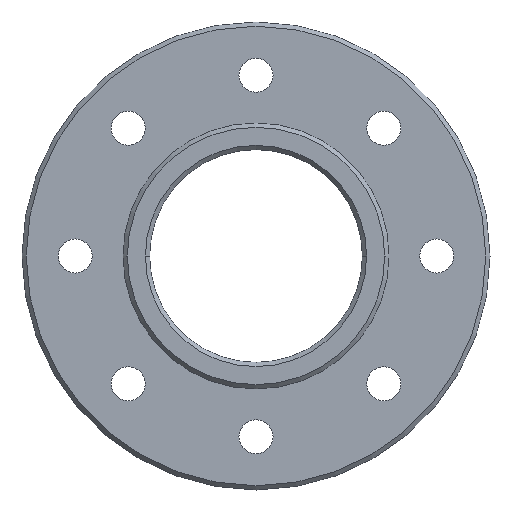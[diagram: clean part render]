
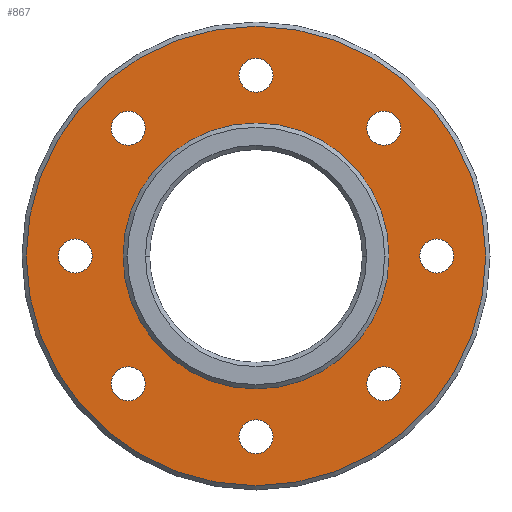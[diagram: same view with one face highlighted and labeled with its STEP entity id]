
A CAD part, front view. The second image highlights one B-rep face of the part: STEP entity #867.
In plain terms, the highlighted planar face has unit normal (0, -1, 0).
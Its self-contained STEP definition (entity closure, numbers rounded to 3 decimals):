
#28=CARTESIAN_POINT('',(0.,-2.,0.));
#29=DIRECTION('',(0.,1.,0.));
#30=DIRECTION('',(1.,0.,0.));
#31=AXIS2_PLACEMENT_3D('',#28,#29,#30);
#33=CARTESIAN_POINT('',(0.,-2.,0.));
#34=DIRECTION('',(0.,-1.,0.));
#35=DIRECTION('',(1.,0.,0.));
#36=AXIS2_PLACEMENT_3D('',#33,#34,#35);
#38=CARTESIAN_POINT('',(0.,-2.,-8.5));
#39=DIRECTION('',(0.,1.,0.));
#40=DIRECTION('',(1.,0.,0.));
#41=AXIS2_PLACEMENT_3D('',#38,#39,#40);
#43=CARTESIAN_POINT('',(0.,-2.,-8.5));
#44=DIRECTION('',(0.,1.,0.));
#45=DIRECTION('',(-1.,0.,0.));
#46=AXIS2_PLACEMENT_3D('',#43,#44,#45);
#48=CARTESIAN_POINT('',(6.01,-2.,-6.01));
#49=DIRECTION('',(0.,1.,0.));
#50=DIRECTION('',(1.,0.,0.));
#51=AXIS2_PLACEMENT_3D('',#48,#49,#50);
#53=CARTESIAN_POINT('',(6.01,-2.,-6.01));
#54=DIRECTION('',(0.,1.,0.));
#55=DIRECTION('',(-1.,0.,0.));
#56=AXIS2_PLACEMENT_3D('',#53,#54,#55);
#58=CARTESIAN_POINT('',(8.5,-2.,0.));
#59=DIRECTION('',(0.,1.,0.));
#60=DIRECTION('',(1.,0.,0.));
#61=AXIS2_PLACEMENT_3D('',#58,#59,#60);
#63=CARTESIAN_POINT('',(8.5,-2.,0.));
#64=DIRECTION('',(0.,1.,0.));
#65=DIRECTION('',(-1.,0.,0.));
#66=AXIS2_PLACEMENT_3D('',#63,#64,#65);
#68=CARTESIAN_POINT('',(6.01,-2.,6.01));
#69=DIRECTION('',(0.,1.,0.));
#70=DIRECTION('',(1.,0.,0.));
#71=AXIS2_PLACEMENT_3D('',#68,#69,#70);
#73=CARTESIAN_POINT('',(6.01,-2.,6.01));
#74=DIRECTION('',(0.,1.,0.));
#75=DIRECTION('',(-1.,0.,0.));
#76=AXIS2_PLACEMENT_3D('',#73,#74,#75);
#78=CARTESIAN_POINT('',(0.,-2.,8.5));
#79=DIRECTION('',(0.,1.,0.));
#80=DIRECTION('',(1.,0.,0.));
#81=AXIS2_PLACEMENT_3D('',#78,#79,#80);
#83=CARTESIAN_POINT('',(0.,-2.,8.5));
#84=DIRECTION('',(0.,1.,0.));
#85=DIRECTION('',(-1.,0.,0.));
#86=AXIS2_PLACEMENT_3D('',#83,#84,#85);
#88=CARTESIAN_POINT('',(-6.01,-2.,6.01));
#89=DIRECTION('',(0.,1.,0.));
#90=DIRECTION('',(1.,0.,0.));
#91=AXIS2_PLACEMENT_3D('',#88,#89,#90);
#93=CARTESIAN_POINT('',(-6.01,-2.,6.01));
#94=DIRECTION('',(0.,1.,0.));
#95=DIRECTION('',(-1.,0.,0.));
#96=AXIS2_PLACEMENT_3D('',#93,#94,#95);
#98=CARTESIAN_POINT('',(-8.5,-2.,0.));
#99=DIRECTION('',(0.,1.,0.));
#100=DIRECTION('',(1.,0.,0.));
#101=AXIS2_PLACEMENT_3D('',#98,#99,#100);
#103=CARTESIAN_POINT('',(-8.5,-2.,0.));
#104=DIRECTION('',(0.,1.,0.));
#105=DIRECTION('',(-1.,0.,0.));
#106=AXIS2_PLACEMENT_3D('',#103,#104,#105);
#108=CARTESIAN_POINT('',(-6.01,-2.,-6.01));
#109=DIRECTION('',(0.,1.,0.));
#110=DIRECTION('',(1.,0.,0.));
#111=AXIS2_PLACEMENT_3D('',#108,#109,#110);
#113=CARTESIAN_POINT('',(-6.01,-2.,-6.01));
#114=DIRECTION('',(0.,1.,0.));
#115=DIRECTION('',(-1.,0.,0.));
#116=AXIS2_PLACEMENT_3D('',#113,#114,#115);
#127=CARTESIAN_POINT('',(0.,-2.,0.));
#128=DIRECTION('',(0.,-1.,0.));
#129=DIRECTION('',(1.,0.,0.));
#130=AXIS2_PLACEMENT_3D('',#127,#128,#129);
#575=CARTESIAN_POINT('',(0.,-2.,0.));
#576=DIRECTION('',(0.,1.,0.));
#577=DIRECTION('',(1.,0.,0.));
#578=AXIS2_PLACEMENT_3D('',#575,#576,#577);
#590=CARTESIAN_POINT('',(6.25,-2.,0.));
#591=CARTESIAN_POINT('',(-6.25,-2.,0.));
#592=VERTEX_POINT('',#590);
#593=VERTEX_POINT('',#591);
#602=CARTESIAN_POINT('',(0.8,-2.,-8.5));
#603=CARTESIAN_POINT('',(-0.8,-2.,-8.5));
#604=VERTEX_POINT('',#602);
#605=VERTEX_POINT('',#603);
#614=CARTESIAN_POINT('',(6.81,-2.,-6.01));
#615=CARTESIAN_POINT('',(5.21,-2.,-6.01));
#616=VERTEX_POINT('',#614);
#617=VERTEX_POINT('',#615);
#626=CARTESIAN_POINT('',(9.3,-2.,0.));
#627=CARTESIAN_POINT('',(7.7,-2.,0.));
#628=VERTEX_POINT('',#626);
#629=VERTEX_POINT('',#627);
#638=CARTESIAN_POINT('',(6.81,-2.,6.01));
#639=CARTESIAN_POINT('',(5.21,-2.,6.01));
#640=VERTEX_POINT('',#638);
#641=VERTEX_POINT('',#639);
#650=CARTESIAN_POINT('',(0.8,-2.,8.5));
#651=CARTESIAN_POINT('',(-0.8,-2.,8.5));
#652=VERTEX_POINT('',#650);
#653=VERTEX_POINT('',#651);
#662=CARTESIAN_POINT('',(-5.21,-2.,6.01));
#663=CARTESIAN_POINT('',(-6.81,-2.,6.01));
#664=VERTEX_POINT('',#662);
#665=VERTEX_POINT('',#663);
#674=CARTESIAN_POINT('',(-7.7,-2.,0.));
#675=CARTESIAN_POINT('',(-9.3,-2.,0.));
#676=VERTEX_POINT('',#674);
#677=VERTEX_POINT('',#675);
#686=CARTESIAN_POINT('',(-5.21,-2.,-6.01));
#687=CARTESIAN_POINT('',(-6.81,-2.,-6.01));
#688=VERTEX_POINT('',#686);
#689=VERTEX_POINT('',#687);
#706=CARTESIAN_POINT('',(10.8,-2.,0.));
#707=CARTESIAN_POINT('',(-10.8,-2.,0.));
#708=VERTEX_POINT('',#706);
#709=VERTEX_POINT('',#707);
#804=CARTESIAN_POINT('',(0.,-2.,0.));
#805=DIRECTION('',(0.,-1.,0.));
#806=DIRECTION('',(-1.,0.,0.));
#807=AXIS2_PLACEMENT_3D('',#804,#805,#806);
#808=PLANE('',#807);
#810=ORIENTED_EDGE('',*,*,#809,.F.);
#812=ORIENTED_EDGE('',*,*,#811,.T.);
#813=EDGE_LOOP('',(#810,#812));
#814=FACE_OUTER_BOUND('',#813,.F.);
#815=ORIENTED_EDGE('',*,*,#796,.F.);
#816=ORIENTED_EDGE('',*,*,#785,.T.);
#817=EDGE_LOOP('',(#815,#816));
#818=FACE_BOUND('',#817,.F.);
#820=ORIENTED_EDGE('',*,*,#819,.F.);
#822=ORIENTED_EDGE('',*,*,#821,.F.);
#823=EDGE_LOOP('',(#820,#822));
#824=FACE_BOUND('',#823,.F.);
#826=ORIENTED_EDGE('',*,*,#825,.F.);
#828=ORIENTED_EDGE('',*,*,#827,.F.);
#829=EDGE_LOOP('',(#826,#828));
#830=FACE_BOUND('',#829,.F.);
#832=ORIENTED_EDGE('',*,*,#831,.F.);
#834=ORIENTED_EDGE('',*,*,#833,.F.);
#835=EDGE_LOOP('',(#832,#834));
#836=FACE_BOUND('',#835,.F.);
#838=ORIENTED_EDGE('',*,*,#837,.F.);
#840=ORIENTED_EDGE('',*,*,#839,.F.);
#841=EDGE_LOOP('',(#838,#840));
#842=FACE_BOUND('',#841,.F.);
#844=ORIENTED_EDGE('',*,*,#843,.F.);
#846=ORIENTED_EDGE('',*,*,#845,.F.);
#847=EDGE_LOOP('',(#844,#846));
#848=FACE_BOUND('',#847,.F.);
#850=ORIENTED_EDGE('',*,*,#849,.F.);
#852=ORIENTED_EDGE('',*,*,#851,.F.);
#853=EDGE_LOOP('',(#850,#852));
#854=FACE_BOUND('',#853,.F.);
#856=ORIENTED_EDGE('',*,*,#855,.F.);
#858=ORIENTED_EDGE('',*,*,#857,.F.);
#859=EDGE_LOOP('',(#856,#858));
#860=FACE_BOUND('',#859,.F.);
#862=ORIENTED_EDGE('',*,*,#861,.F.);
#864=ORIENTED_EDGE('',*,*,#863,.F.);
#865=EDGE_LOOP('',(#862,#864));
#866=FACE_BOUND('',#865,.F.);
#867=ADVANCED_FACE('',(#814,#818,#824,#830,#836,#842,#848,#854,#860,#866),#808,
.T.);
#32=CIRCLE('',#31,6.25);
#37=CIRCLE('',#36,6.25);
#42=CIRCLE('',#41,0.8);
#47=CIRCLE('',#46,0.8);
#52=CIRCLE('',#51,0.8);
#57=CIRCLE('',#56,0.8);
#62=CIRCLE('',#61,0.8);
#67=CIRCLE('',#66,0.8);
#72=CIRCLE('',#71,0.8);
#77=CIRCLE('',#76,0.8);
#82=CIRCLE('',#81,0.8);
#87=CIRCLE('',#86,0.8);
#92=CIRCLE('',#91,0.8);
#97=CIRCLE('',#96,0.8);
#102=CIRCLE('',#101,0.8);
#107=CIRCLE('',#106,0.8);
#112=CIRCLE('',#111,0.8);
#117=CIRCLE('',#116,0.8);
#131=CIRCLE('',#130,10.8);
#579=CIRCLE('',#578,10.8);
#785=EDGE_CURVE('',#592,#593,#37,.T.);
#796=EDGE_CURVE('',#592,#593,#32,.T.);
#809=EDGE_CURVE('',#708,#709,#131,.T.);
#811=EDGE_CURVE('',#708,#709,#579,.T.);
#819=EDGE_CURVE('',#604,#605,#42,.T.);
#821=EDGE_CURVE('',#605,#604,#47,.T.);
#825=EDGE_CURVE('',#616,#617,#52,.T.);
#827=EDGE_CURVE('',#617,#616,#57,.T.);
#831=EDGE_CURVE('',#628,#629,#62,.T.);
#833=EDGE_CURVE('',#629,#628,#67,.T.);
#837=EDGE_CURVE('',#640,#641,#72,.T.);
#839=EDGE_CURVE('',#641,#640,#77,.T.);
#843=EDGE_CURVE('',#652,#653,#82,.T.);
#845=EDGE_CURVE('',#653,#652,#87,.T.);
#849=EDGE_CURVE('',#664,#665,#92,.T.);
#851=EDGE_CURVE('',#665,#664,#97,.T.);
#855=EDGE_CURVE('',#676,#677,#102,.T.);
#857=EDGE_CURVE('',#677,#676,#107,.T.);
#861=EDGE_CURVE('',#688,#689,#112,.T.);
#863=EDGE_CURVE('',#689,#688,#117,.T.);
